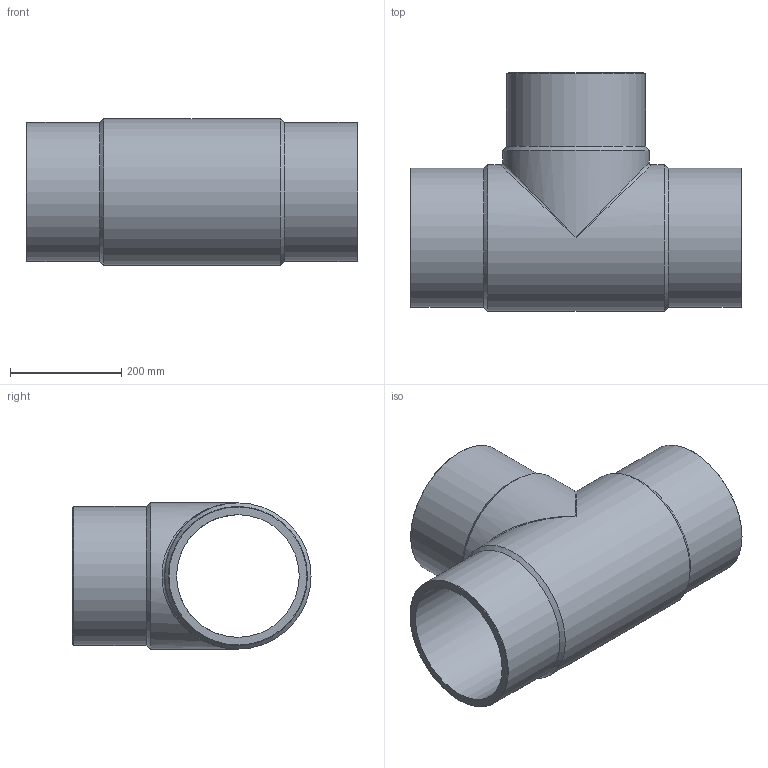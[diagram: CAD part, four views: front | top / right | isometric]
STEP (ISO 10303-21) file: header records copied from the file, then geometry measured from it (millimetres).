
FILE_DESCRIPTION(/* description */ ('Unknown'),/* implementation_level */ '2;1');
FILE_NAME(/* name */ 'TP250B',/* time_stamp */ '2021-08-06T10:50:47+02:00',/* author */ ('Unknown'),/* organization */ ('Unknown'),/* preprocessor_version */ 'ST-DEVELOPER v16.7',/* originating_system */ 'Solid Edge',/* authorisation */ 'Unknown');
FILE_SCHEMA (('AUTOMOTIVE_DESIGN {1 0 10303 214 3 1 1}'));
Length unit declared in the file: millimetre
Products named in the file (1): TP250B
Bounding box: 596 x 428 x 263 mm (x, y, z)
Volume: 9806844 mm3; surface area: 1139858.2 mm2
Topology: 1 solids, 1 shells, 18 faces, 44 edges, 23 vertices
Faces by surface type: cylinder 7, cone 6, plane 3, bspline 2
Full cylindrical faces by diameter (mm): 220.4 x2, 250 x3, 263 x2
Entity records: 528 total; most frequent: CARTESIAN_POINT 171, DIRECTION 76, ORIENTED_EDGE 42, AXIS2_PLACEMENT_3D 38, EDGE_LOOP 36, FACE_BOUND 36, EDGE_CURVE 21, VERTEX_POINT 19
